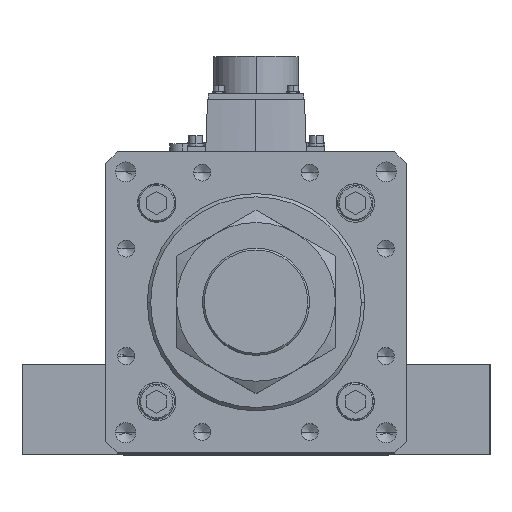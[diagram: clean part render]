
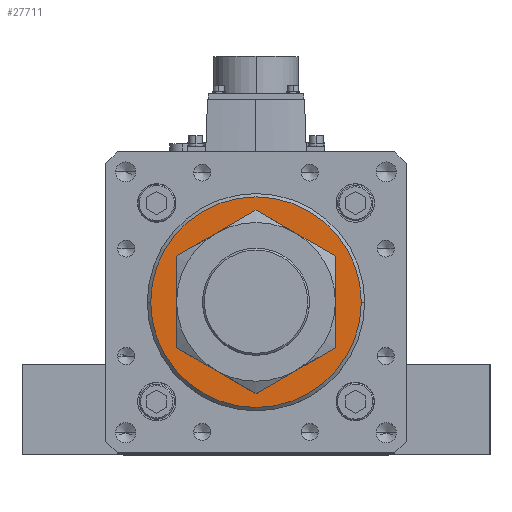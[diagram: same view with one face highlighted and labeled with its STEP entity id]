
A CAD part, top view. The second image highlights one B-rep face of the part: STEP entity #27711.
In plain terms, the highlighted planar face has unit normal (0, 0, 1).
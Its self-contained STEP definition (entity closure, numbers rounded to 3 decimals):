
#1235 = CARTESIAN_POINT ( 'NONE',  ( 0., 0., 562. ) ) ;
#2159 = EDGE_LOOP ( 'NONE', ( #53811, #7956 ) ) ;
#3433 = DIRECTION ( 'NONE',  ( 1., 0., 0. ) ) ;
#3904 = EDGE_CURVE ( 'NONE', #55042, #53493, #38260, .T. ) ;
#5734 = CIRCLE ( 'NONE', #22158, 40.5 ) ;
#7224 = AXIS2_PLACEMENT_3D ( 'NONE', #21493, #42751, #43531 ) ;
#7956 = ORIENTED_EDGE ( 'NONE', *, *, #55960, .T. ) ;
#10445 = ORIENTED_EDGE ( 'NONE', *, *, #37906, .T. ) ;
#11803 = AXIS2_PLACEMENT_3D ( 'NONE', #47426, #56373, #3433 ) ;
#16946 = CARTESIAN_POINT ( 'NONE',  ( -40.5, 0., 562. ) ) ;
#17918 = VERTEX_POINT ( 'NONE', #27925 ) ;
#18289 = FACE_BOUND ( 'NONE', #40919, .T. ) ;
#20823 = CARTESIAN_POINT ( 'NONE',  ( 0., 0., 562. ) ) ;
#21493 = CARTESIAN_POINT ( 'NONE',  ( 0., 0., 562. ) ) ;
#22158 = AXIS2_PLACEMENT_3D ( 'NONE', #20823, #42258, #29709 ) ;
#24586 = CARTESIAN_POINT ( 'NONE',  ( 0., 0., 562. ) ) ;
#24791 = CIRCLE ( 'NONE', #11803, 63. ) ;
#27711 = ADVANCED_FACE ( 'NONE', ( #18289, #40382 ), #56727, .T. ) ;
#27843 = DIRECTION ( 'NONE',  ( 1., 0., 0. ) ) ;
#27925 = CARTESIAN_POINT ( 'NONE',  ( 40.5, 0., 562. ) ) ;
#29709 = DIRECTION ( 'NONE',  ( 1., 0., 0. ) ) ;
#32080 = DIRECTION ( 'NONE',  ( 0., 0., -1. ) ) ;
#33367 = CIRCLE ( 'NONE', #38856, 40.5 ) ;
#34073 = CARTESIAN_POINT ( 'NONE',  ( -63., 0., 562. ) ) ;
#34293 = ORIENTED_EDGE ( 'NONE', *, *, #38142, .T. ) ;
#37906 = EDGE_CURVE ( 'NONE', #17918, #43175, #33367, .T. ) ;
#38142 = EDGE_CURVE ( 'NONE', #43175, #17918, #5734, .T. ) ;
#38260 = CIRCLE ( 'NONE', #42608, 63. ) ;
#38856 = AXIS2_PLACEMENT_3D ( 'NONE', #1235, #32080, #27843 ) ;
#40382 = FACE_OUTER_BOUND ( 'NONE', #2159, .T. ) ;
#40919 = EDGE_LOOP ( 'NONE', ( #10445, #34293 ) ) ;
#42169 = DIRECTION ( 'NONE',  ( 0., 0., 1. ) ) ;
#42258 = DIRECTION ( 'NONE',  ( 0., 0., -1. ) ) ;
#42608 = AXIS2_PLACEMENT_3D ( 'NONE', #24586, #42169, #55391 ) ;
#42751 = DIRECTION ( 'NONE',  ( 0., 0., 1. ) ) ;
#43175 = VERTEX_POINT ( 'NONE', #16946 ) ;
#43531 = DIRECTION ( 'NONE',  ( 1., 0., 0. ) ) ;
#45136 = CARTESIAN_POINT ( 'NONE',  ( 63., 0., 562. ) ) ;
#47426 = CARTESIAN_POINT ( 'NONE',  ( 0., 0., 562. ) ) ;
#53493 = VERTEX_POINT ( 'NONE', #45136 ) ;
#53811 = ORIENTED_EDGE ( 'NONE', *, *, #3904, .T. ) ;
#55042 = VERTEX_POINT ( 'NONE', #34073 ) ;
#55391 = DIRECTION ( 'NONE',  ( 1., 0., 0. ) ) ;
#55960 = EDGE_CURVE ( 'NONE', #53493, #55042, #24791, .T. ) ;
#56373 = DIRECTION ( 'NONE',  ( 0., 0., 1. ) ) ;
#56727 = PLANE ( 'NONE',  #7224 ) ;
